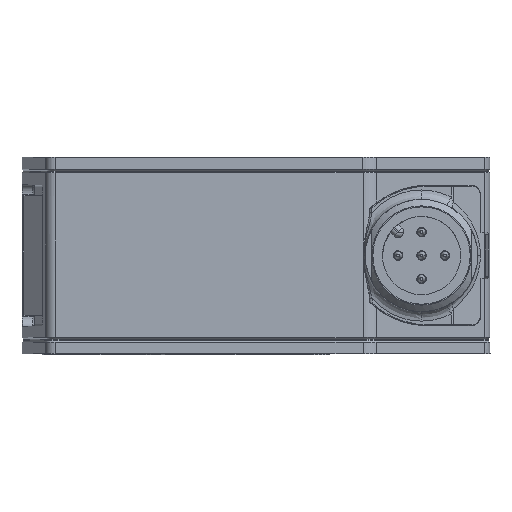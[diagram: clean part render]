
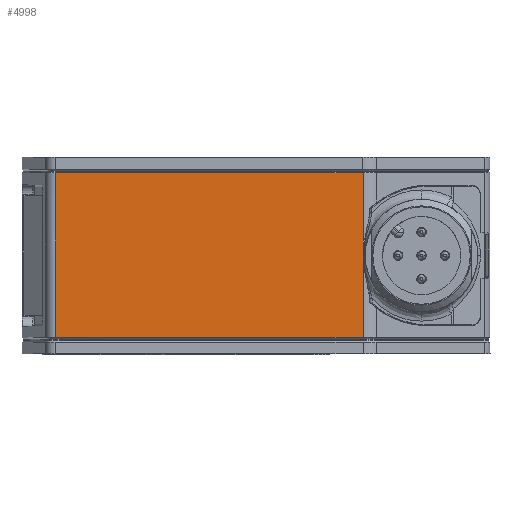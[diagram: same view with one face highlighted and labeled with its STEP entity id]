
A CAD part, front view. The second image highlights one B-rep face of the part: STEP entity #4998.
In plain terms, the highlighted planar face has unit normal (0.001, -1, 0).
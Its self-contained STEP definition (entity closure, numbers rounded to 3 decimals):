
#4998=ADVANCED_FACE('',(#6119),#5627,.F.);
#5627=PLANE('',#17894);
#6119=FACE_OUTER_BOUND('',#6879,.T.);
#6879=EDGE_LOOP('',(#11190,#11191,#11192,#11193));
#7878=LINE('',#24201,#9109);
#7879=LINE('',#24204,#9110);
#7880=LINE('',#24206,#9111);
#9109=VECTOR('',#19571,1.);
#9110=VECTOR('',#19572,1.);
#9111=VECTOR('',#19573,1.);
#11190=ORIENTED_EDGE('',*,*,#15833,.F.);
#11191=ORIENTED_EDGE('',*,*,#15834,.T.);
#11192=ORIENTED_EDGE('',*,*,#15835,.F.);
#11193=ORIENTED_EDGE('',*,*,#15836,.T.);
#14408=VERTEX_POINT('',#24202);
#14409=VERTEX_POINT('',#24203);
#14410=VERTEX_POINT('',#24205);
#14411=VERTEX_POINT('',#24207);
#15833=EDGE_CURVE('',#14408,#14409,#7878,.T.);
#15834=EDGE_CURVE('',#14408,#14410,#7879,.T.);
#15835=EDGE_CURVE('',#14411,#14410,#7880,.T.);
#15836=EDGE_CURVE('',#14411,#14409,#17165,.T.);
#17165=B_SPLINE_CURVE_WITH_KNOTS('',3,(#24208,#24209,#24210,#24211,#24212,
#24213,#24214,#24215,#24216,#24217,#24218,#24219,#24220,#24221,#24222,#24223,
#24224,#24225,#24226,#24227,#24228,#24229,#24230,#24231,#24232,#24233,#24234,
#24235,#24236,#24237),.UNSPECIFIED.,.F.,.F.,(4,2,2,2,2,2,2,2,2,2,2,2,2,
2,4),(0.,0.008,0.016,0.031,0.063,
0.125,0.25,0.5,0.75,0.875,0.938,0.969,0.984,0.992,1.),
 .UNSPECIFIED.);
#17894=AXIS2_PLACEMENT_3D('',#24238,#19574,#19575);
#19571=DIRECTION('',(0.,0.,-1.));
#19572=DIRECTION('',(-1.,-0.001,0.));
#19573=DIRECTION('',(0.,0.,1.));
#19574=DIRECTION('',(-0.001,1.,0.));
#19575=DIRECTION('',(1.,0.001,0.));
#24201=CARTESIAN_POINT('',(42.8,23.051,0.877));
#24202=CARTESIAN_POINT('',(42.8,23.051,19.352));
#24203=CARTESIAN_POINT('',(42.8,23.051,1.75));
#24204=CARTESIAN_POINT('',(9.926,23.034,19.352));
#24205=CARTESIAN_POINT('',(9.926,23.034,19.352));
#24206=CARTESIAN_POINT('',(9.926,23.034,20.002));
#24207=CARTESIAN_POINT('',(9.926,23.034,1.748));
#24208=CARTESIAN_POINT('',(9.926,23.034,1.748));
#24209=CARTESIAN_POINT('',(10.012,23.034,1.745));
#24210=CARTESIAN_POINT('',(10.097,23.035,1.748));
#24211=CARTESIAN_POINT('',(10.268,23.035,1.753));
#24212=CARTESIAN_POINT('',(10.354,23.035,1.753));
#24213=CARTESIAN_POINT('',(10.611,23.035,1.752));
#24214=CARTESIAN_POINT('',(10.782,23.035,1.751));
#24215=CARTESIAN_POINT('',(11.296,23.035,1.75));
#24216=CARTESIAN_POINT('',(11.638,23.035,1.751));
#24217=CARTESIAN_POINT('',(12.665,23.036,1.753));
#24218=CARTESIAN_POINT('',(13.35,23.036,1.753));
#24219=CARTESIAN_POINT('',(15.405,23.037,1.752));
#24220=CARTESIAN_POINT('',(16.775,23.038,1.751));
#24221=CARTESIAN_POINT('',(20.884,23.04,1.751));
#24222=CARTESIAN_POINT('',(23.624,23.041,1.752));
#24223=CARTESIAN_POINT('',(29.103,23.044,1.752));
#24224=CARTESIAN_POINT('',(31.842,23.046,1.752));
#24225=CARTESIAN_POINT('',(35.951,23.048,1.751));
#24226=CARTESIAN_POINT('',(37.321,23.048,1.751));
#24227=CARTESIAN_POINT('',(39.376,23.05,1.752));
#24228=CARTESIAN_POINT('',(40.061,23.05,1.752));
#24229=CARTESIAN_POINT('',(41.088,23.05,1.752));
#24230=CARTESIAN_POINT('',(41.431,23.051,1.752));
#24231=CARTESIAN_POINT('',(41.944,23.051,1.751));
#24232=CARTESIAN_POINT('',(42.115,23.051,1.752));
#24233=CARTESIAN_POINT('',(42.372,23.051,1.752));
#24234=CARTESIAN_POINT('',(42.458,23.051,1.752));
#24235=CARTESIAN_POINT('',(42.629,23.051,1.75));
#24236=CARTESIAN_POINT('',(42.715,23.051,1.748));
#24237=CARTESIAN_POINT('',(42.8,23.051,1.75));
#24238=CARTESIAN_POINT('',(8.977,23.034,20.002));
